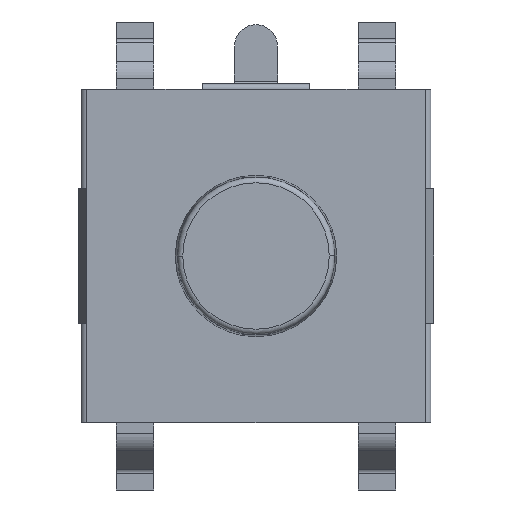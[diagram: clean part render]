
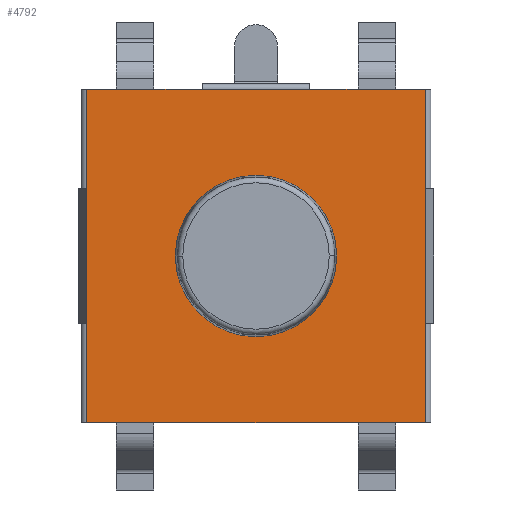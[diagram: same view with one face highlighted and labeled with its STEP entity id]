
A CAD part, front view. The second image highlights one B-rep face of the part: STEP entity #4792.
In plain terms, the highlighted planar face has unit normal (0, -1, 0).
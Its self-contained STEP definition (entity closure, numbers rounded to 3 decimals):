
#3716=DIRECTION('',(1.,0.,0.));
#3717=VECTOR('',#3716,2.);
#3718=CARTESIAN_POINT('',(-1.,-0.1,3.1));
#3719=LINE('',#3718,#3717);
#3901=CARTESIAN_POINT('',(0.,-0.1,0.));
#3902=DIRECTION('',(0.,-1.,0.));
#3903=DIRECTION('',(1.,0.,0.));
#3904=AXIS2_PLACEMENT_3D('',#3901,#3902,#3903);
#3906=CARTESIAN_POINT('',(0.,-0.1,0.));
#3907=DIRECTION('',(0.,-1.,0.));
#3908=DIRECTION('',(-1.,0.,0.));
#3909=AXIS2_PLACEMENT_3D('',#3906,#3907,#3908);
#3911=DIRECTION('',(1.,0.,0.));
#3912=VECTOR('',#3911,2.15);
#3913=CARTESIAN_POINT('',(1.,-0.1,3.1));
#3914=LINE('',#3913,#3912);
#3915=DIRECTION('',(-1.,0.,0.));
#3916=VECTOR('',#3915,6.3);
#3917=CARTESIAN_POINT('',(3.15,-0.1,-3.1));
#3918=LINE('',#3917,#3916);
#3919=DIRECTION('',(1.,0.,0.));
#3920=VECTOR('',#3919,2.15);
#3921=CARTESIAN_POINT('',(-3.15,-0.1,3.1));
#3922=LINE('',#3921,#3920);
#3923=DIRECTION('',(0.,0.,-1.));
#3924=VECTOR('',#3923,1.85);
#3925=CARTESIAN_POINT('',(3.15,-0.1,3.1));
#3926=LINE('',#3925,#3924);
#3941=DIRECTION('',(0.,0.,-1.));
#3942=VECTOR('',#3941,1.85);
#3943=CARTESIAN_POINT('',(3.15,-0.1,-1.25));
#3944=LINE('',#3943,#3942);
#4059=DIRECTION('',(0.,0.,-1.));
#4060=VECTOR('',#4059,2.5);
#4061=CARTESIAN_POINT('',(3.15,-0.1,1.25));
#4062=LINE('',#4061,#4060);
#4099=DIRECTION('',(0.,0.,1.));
#4100=VECTOR('',#4099,1.85);
#4101=CARTESIAN_POINT('',(-3.15,-0.1,1.25));
#4102=LINE('',#4101,#4100);
#4117=DIRECTION('',(0.,0.,1.));
#4118=VECTOR('',#4117,1.85);
#4119=CARTESIAN_POINT('',(-3.15,-0.1,-3.1));
#4120=LINE('',#4119,#4118);
#4163=DIRECTION('',(0.,0.,1.));
#4164=VECTOR('',#4163,2.5);
#4165=CARTESIAN_POINT('',(-3.15,-0.1,-1.25));
#4166=LINE('',#4165,#4164);
#4179=CARTESIAN_POINT('',(1.5,-0.1,0.));
#4180=CARTESIAN_POINT('',(-1.5,-0.1,0.));
#4181=VERTEX_POINT('',#4179);
#4182=VERTEX_POINT('',#4180);
#4195=CARTESIAN_POINT('',(-3.15,-0.1,3.1));
#4196=VERTEX_POINT('',#4195);
#4197=CARTESIAN_POINT('',(-3.15,-0.1,-3.1));
#4198=VERTEX_POINT('',#4197);
#4201=CARTESIAN_POINT('',(3.15,-0.1,-3.1));
#4202=VERTEX_POINT('',#4201);
#4205=CARTESIAN_POINT('',(3.15,-0.1,3.1));
#4206=VERTEX_POINT('',#4205);
#4239=CARTESIAN_POINT('',(-1.,-0.1,3.1));
#4240=VERTEX_POINT('',#4239);
#4243=CARTESIAN_POINT('',(1.,-0.1,3.1));
#4244=VERTEX_POINT('',#4243);
#4283=CARTESIAN_POINT('',(-3.15,-0.1,1.25));
#4284=VERTEX_POINT('',#4283);
#4285=CARTESIAN_POINT('',(-3.15,-0.1,-1.25));
#4286=VERTEX_POINT('',#4285);
#4287=CARTESIAN_POINT('',(3.15,-0.1,-1.25));
#4288=VERTEX_POINT('',#4287);
#4289=CARTESIAN_POINT('',(3.15,-0.1,1.25));
#4290=VERTEX_POINT('',#4289);
#4764=CARTESIAN_POINT('',(0.,-0.1,0.));
#4765=DIRECTION('',(0.,1.,0.));
#4766=DIRECTION('',(1.,0.,0.));
#4767=AXIS2_PLACEMENT_3D('',#4764,#4765,#4766);
#4768=PLANE('',#4767);
#4769=ORIENTED_EDGE('',*,*,#4471,.T.);
#4771=ORIENTED_EDGE('',*,*,#4770,.T.);
#4773=ORIENTED_EDGE('',*,*,#4772,.T.);
#4775=ORIENTED_EDGE('',*,*,#4774,.T.);
#4777=ORIENTED_EDGE('',*,*,#4776,.T.);
#4779=ORIENTED_EDGE('',*,*,#4778,.T.);
#4781=ORIENTED_EDGE('',*,*,#4780,.T.);
#4783=ORIENTED_EDGE('',*,*,#4782,.T.);
#4784=ORIENTED_EDGE('',*,*,#4452,.T.);
#4785=ORIENTED_EDGE('',*,*,#4498,.T.);
#4786=EDGE_LOOP('',(#4769,#4771,#4773,#4775,#4777,#4779,#4781,#4783,#4784,
#4785));
#4787=FACE_OUTER_BOUND('',#4786,.F.);
#4788=ORIENTED_EDGE('',*,*,#4744,.T.);
#4789=ORIENTED_EDGE('',*,*,#4758,.T.);
#4790=EDGE_LOOP('',(#4788,#4789));
#4791=FACE_BOUND('',#4790,.F.);
#3905=CIRCLE('',#3904,1.5);
#3910=CIRCLE('',#3909,1.5);
#4452=EDGE_CURVE('',#4196,#4240,#3922,.T.);
#4471=EDGE_CURVE('',#4244,#4206,#3914,.T.);
#4498=EDGE_CURVE('',#4240,#4244,#3719,.T.);
#4744=EDGE_CURVE('',#4181,#4182,#3905,.T.);
#4758=EDGE_CURVE('',#4182,#4181,#3910,.T.);
#4770=EDGE_CURVE('',#4206,#4290,#3926,.T.);
#4772=EDGE_CURVE('',#4290,#4288,#4062,.T.);
#4774=EDGE_CURVE('',#4288,#4202,#3944,.T.);
#4776=EDGE_CURVE('',#4202,#4198,#3918,.T.);
#4778=EDGE_CURVE('',#4198,#4286,#4120,.T.);
#4780=EDGE_CURVE('',#4286,#4284,#4166,.T.);
#4782=EDGE_CURVE('',#4284,#4196,#4102,.T.);
#4792=ADVANCED_FACE('',(#4787,#4791),#4768,.F.);
